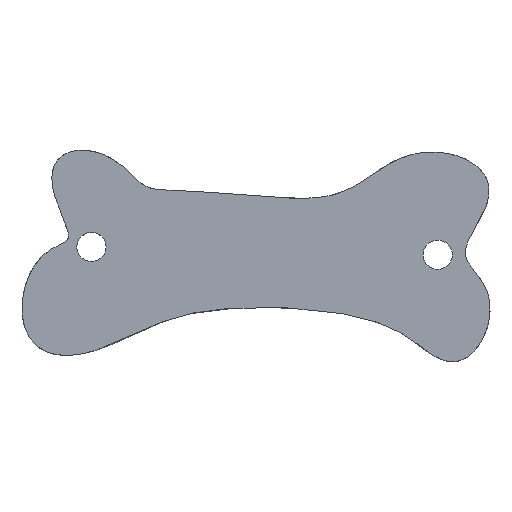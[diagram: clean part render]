
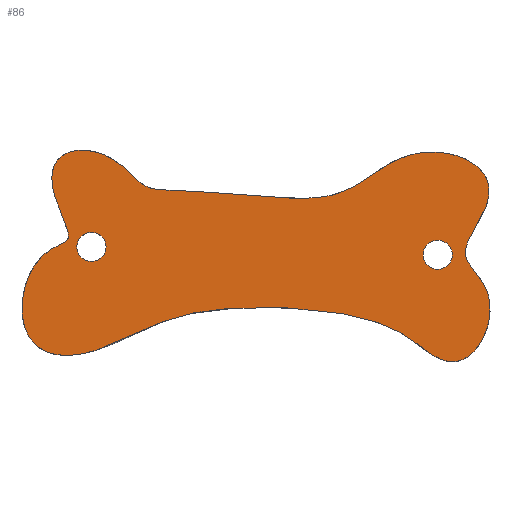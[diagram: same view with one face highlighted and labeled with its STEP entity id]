
A CAD part, top view. The second image highlights one B-rep face of the part: STEP entity #86.
In plain terms, the highlighted planar face has unit normal (0, 0, 1).
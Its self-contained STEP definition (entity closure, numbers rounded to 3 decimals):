
#15=FACE_BOUND('',#33,.T.);
#16=FACE_BOUND('',#34,.T.);
#19=PLANE('',#108);
#22=(
BOUNDED_CURVE()
B_SPLINE_CURVE(5,(#432,#433,#434,#435,#436,#437,#438,#439,#440,#441,#442,
#443,#444,#445,#446,#447,#448,#449,#450,#451,#452,#453,#454,#455,#456,#457,
#458,#459,#460,#461,#462,#463,#464,#465,#466,#467,#468,#469,#470,#471,#472,
#473,#474,#475,#476,#477,#478,#479,#480,#481,#482,#483,#484,#485,#486,#487,
#488,#489,#490,#491,#492,#493,#494,#495,#496,#497,#498,#499,#500,#501,#502,
#503,#504,#505,#506,#507,#508,#509,#510,#511,#512,#513,#514,#515,#516,#517,
#518,#519,#520,#521,#522,#523,#524,#525,#526),.UNSPECIFIED.,.T.,.F.)
B_SPLINE_CURVE_WITH_KNOTS((6,1,1,1,1,1,1,1,1,1,1,1,1,1,1,1,1,1,1,1,1,1,
1,1,1,1,1,1,1,1,1,1,1,1,1,1,1,1,1,1,1,1,1,1,1,1,1,1,1,1,1,1,1,1,1,1,1,1,
1,1,1,1,1,1,1,1,1,1,1,1,1,1,1,1,1,1,1,1,1,1,1,1,1,1,1,1,1,1,1,1,6),(-1.,
-0.989,-0.978,-0.967,-0.956,
-0.944,-0.933,-0.922,-0.911,
-0.9,-0.889,-0.878,-0.867,
-0.856,-0.844,-0.833,-0.822,
-0.811,-0.8,-0.789,-0.778,
-0.767,-0.756,-0.744,-0.733,
-0.722,-0.711,-0.7,-0.689,-0.678,
-0.667,-0.656,-0.644,-0.633,
-0.622,-0.611,-0.6,-0.589,-0.578,
-0.567,-0.556,-0.544,-0.533,
-0.522,-0.511,-0.5,-0.489,-0.478,
-0.467,-0.456,-0.444,-0.433,
-0.422,-0.411,-0.4,-0.389,-0.378,
-0.367,-0.356,-0.344,-0.333,
-0.322,-0.311,-0.3,-0.289,-0.278,
-0.267,-0.256,-0.244,-0.233,
-0.222,-0.211,-0.2,-0.189,-0.178,
-0.167,-0.156,-0.144,-0.133,
-0.122,-0.111,-0.1,-0.089,-0.078,
-0.067,-0.056,-0.044,-0.033,
-0.022,-0.011,0.),.UNSPECIFIED.)
CURVE()
GEOMETRIC_REPRESENTATION_ITEM()
RATIONAL_B_SPLINE_CURVE((1.,1.,1.,1.,1.,1.,1.,1.,1.,1.,1.,1.,1.,1.,1.,1.,
1.,1.,1.,1.,1.,1.,1.,1.,1.,1.,1.,1.,1.,1.,1.,1.,1.,1.,1.,1.,1.,1.,1.,1.,
1.,1.,1.,1.,1.,1.,1.,1.,1.,1.,1.,1.,1.,1.,1.,1.,1.,1.,1.,1.,1.,1.,1.,1.,
1.,1.,1.,1.,1.,1.,1.,1.,1.,1.,1.,1.,1.,1.,1.,1.,1.,1.,1.,1.,1.,1.,1.,1.,
1.,1.,1.,1.,1.,1.,1.))
REPRESENTATION_ITEM('')
);
#27=FACE_OUTER_BOUND('',#32,.T.);
#32=EDGE_LOOP('',(#75));
#33=EDGE_LOOP('',(#76));
#34=EDGE_LOOP('',(#77));
#44=CIRCLE('',#103,0.75);
#46=CIRCLE('',#106,0.75);
#48=VERTEX_POINT('',#133);
#50=VERTEX_POINT('',#139);
#53=VERTEX_POINT('',#430);
#54=EDGE_CURVE('',#48,#48,#44,.T.);
#57=EDGE_CURVE('',#50,#50,#46,.T.);
#62=EDGE_CURVE('',#53,#53,#22,.T.);
#75=ORIENTED_EDGE('',*,*,#62,.T.);
#76=ORIENTED_EDGE('',*,*,#54,.T.);
#77=ORIENTED_EDGE('',*,*,#57,.T.);
#86=ADVANCED_FACE('',(#27,#15,#16),#19,.T.);
#103=AXIS2_PLACEMENT_3D('',#134,#114,#115);
#106=AXIS2_PLACEMENT_3D('',#140,#121,#122);
#108=AXIS2_PLACEMENT_3D('',#527,#127,#128);
#114=DIRECTION('center_axis',(0.,0.,-1.));
#115=DIRECTION('ref_axis',(-1.,0.,0.));
#121=DIRECTION('center_axis',(0.,0.,-1.));
#122=DIRECTION('ref_axis',(-1.,0.,0.));
#127=DIRECTION('center_axis',(0.,0.,1.));
#128=DIRECTION('ref_axis',(1.,0.,0.));
#133=CARTESIAN_POINT('',(70.05,-26.994,1.5));
#134=CARTESIAN_POINT('Origin',(69.3,-26.994,1.5));
#139=CARTESIAN_POINT('',(52.25,-26.588,1.5));
#140=CARTESIAN_POINT('Origin',(51.5,-26.588,1.5));
#430=CARTESIAN_POINT('',(50.317,-26.042,1.5));
#432=CARTESIAN_POINT('Ctrl Pts',(50.317,-26.042,1.5));
#433=CARTESIAN_POINT('Ctrl Pts',(50.312,-26.109,1.5));
#434=CARTESIAN_POINT('Ctrl Pts',(50.279,-26.225,1.5));
#435=CARTESIAN_POINT('Ctrl Pts',(50.158,-26.352,1.5));
#436=CARTESIAN_POINT('Ctrl Pts',(49.863,-26.477,1.5));
#437=CARTESIAN_POINT('Ctrl Pts',(49.354,-26.713,1.5));
#438=CARTESIAN_POINT('Ctrl Pts',(48.815,-27.161,1.5));
#439=CARTESIAN_POINT('Ctrl Pts',(48.34,-27.848,1.5));
#440=CARTESIAN_POINT('Ctrl Pts',(48.007,-28.723,1.5));
#441=CARTESIAN_POINT('Ctrl Pts',(47.873,-29.682,1.5));
#442=CARTESIAN_POINT('Ctrl Pts',(47.972,-30.602,1.5));
#443=CARTESIAN_POINT('Ctrl Pts',(48.311,-31.366,1.5));
#444=CARTESIAN_POINT('Ctrl Pts',(48.869,-31.895,1.5));
#445=CARTESIAN_POINT('Ctrl Pts',(49.599,-32.168,1.5));
#446=CARTESIAN_POINT('Ctrl Pts',(50.436,-32.205,1.5));
#447=CARTESIAN_POINT('Ctrl Pts',(51.314,-32.054,1.5));
#448=CARTESIAN_POINT('Ctrl Pts',(52.174,-31.776,1.5));
#449=CARTESIAN_POINT('Ctrl Pts',(52.981,-31.432,1.5));
#450=CARTESIAN_POINT('Ctrl Pts',(53.733,-31.07,1.5));
#451=CARTESIAN_POINT('Ctrl Pts',(54.455,-30.722,1.5));
#452=CARTESIAN_POINT('Ctrl Pts',(55.188,-30.411,1.5));
#453=CARTESIAN_POINT('Ctrl Pts',(55.976,-30.149,1.5));
#454=CARTESIAN_POINT('Ctrl Pts',(56.859,-29.942,1.5));
#455=CARTESIAN_POINT('Ctrl Pts',(57.861,-29.794,1.5));
#456=CARTESIAN_POINT('Ctrl Pts',(58.977,-29.704,1.5));
#457=CARTESIAN_POINT('Ctrl Pts',(60.178,-29.673,1.5));
#458=CARTESIAN_POINT('Ctrl Pts',(61.423,-29.699,1.5));
#459=CARTESIAN_POINT('Ctrl Pts',(62.66,-29.78,1.5));
#460=CARTESIAN_POINT('Ctrl Pts',(63.838,-29.913,1.5));
#461=CARTESIAN_POINT('Ctrl Pts',(64.912,-30.096,1.5));
#462=CARTESIAN_POINT('Ctrl Pts',(65.848,-30.327,1.5));
#463=CARTESIAN_POINT('Ctrl Pts',(66.635,-30.603,1.5));
#464=CARTESIAN_POINT('Ctrl Pts',(67.29,-30.922,1.5));
#465=CARTESIAN_POINT('Ctrl Pts',(67.845,-31.278,1.5));
#466=CARTESIAN_POINT('Ctrl Pts',(68.343,-31.656,1.5));
#467=CARTESIAN_POINT('Ctrl Pts',(68.825,-32.027,1.5));
#468=CARTESIAN_POINT('Ctrl Pts',(69.324,-32.342,1.5));
#469=CARTESIAN_POINT('Ctrl Pts',(69.849,-32.527,1.5));
#470=CARTESIAN_POINT('Ctrl Pts',(70.395,-32.511,1.5));
#471=CARTESIAN_POINT('Ctrl Pts',(70.935,-32.243,1.5));
#472=CARTESIAN_POINT('Ctrl Pts',(71.425,-31.721,1.5));
#473=CARTESIAN_POINT('Ctrl Pts',(71.804,-31.008,1.5));
#474=CARTESIAN_POINT('Ctrl Pts',(72.016,-30.2,1.5));
#475=CARTESIAN_POINT('Ctrl Pts',(72.022,-29.401,1.5));
#476=CARTESIAN_POINT('Ctrl Pts',(71.819,-28.698,1.5));
#477=CARTESIAN_POINT('Ctrl Pts',(71.458,-28.132,1.5));
#478=CARTESIAN_POINT('Ctrl Pts',(71.056,-27.679,1.5));
#479=CARTESIAN_POINT('Ctrl Pts',(70.751,-27.274,1.5));
#480=CARTESIAN_POINT('Ctrl Pts',(70.656,-26.843,1.5));
#481=CARTESIAN_POINT('Ctrl Pts',(70.815,-26.33,1.5));
#482=CARTESIAN_POINT('Ctrl Pts',(71.167,-25.719,1.5));
#483=CARTESIAN_POINT('Ctrl Pts',(71.583,-25.025,1.5));
#484=CARTESIAN_POINT('Ctrl Pts',(71.91,-24.288,1.5));
#485=CARTESIAN_POINT('Ctrl Pts',(72.01,-23.559,1.5));
#486=CARTESIAN_POINT('Ctrl Pts',(71.799,-22.892,1.5));
#487=CARTESIAN_POINT('Ctrl Pts',(71.285,-22.337,1.5));
#488=CARTESIAN_POINT('Ctrl Pts',(70.536,-21.933,1.5));
#489=CARTESIAN_POINT('Ctrl Pts',(69.651,-21.709,1.5));
#490=CARTESIAN_POINT('Ctrl Pts',(68.737,-21.675,1.5));
#491=CARTESIAN_POINT('Ctrl Pts',(67.881,-21.822,1.5));
#492=CARTESIAN_POINT('Ctrl Pts',(67.122,-22.116,1.5));
#493=CARTESIAN_POINT('Ctrl Pts',(66.456,-22.506,1.5));
#494=CARTESIAN_POINT('Ctrl Pts',(65.854,-22.934,1.5));
#495=CARTESIAN_POINT('Ctrl Pts',(65.272,-23.342,1.5));
#496=CARTESIAN_POINT('Ctrl Pts',(64.663,-23.683,1.5));
#497=CARTESIAN_POINT('Ctrl Pts',(63.992,-23.928,1.5));
#498=CARTESIAN_POINT('Ctrl Pts',(63.238,-24.07,1.5));
#499=CARTESIAN_POINT('Ctrl Pts',(62.398,-24.12,1.5));
#500=CARTESIAN_POINT('Ctrl Pts',(61.48,-24.097,1.5));
#501=CARTESIAN_POINT('Ctrl Pts',(60.501,-24.028,1.5));
#502=CARTESIAN_POINT('Ctrl Pts',(59.49,-23.938,1.5));
#503=CARTESIAN_POINT('Ctrl Pts',(58.484,-23.85,1.5));
#504=CARTESIAN_POINT('Ctrl Pts',(57.523,-23.778,1.5));
#505=CARTESIAN_POINT('Ctrl Pts',(56.647,-23.727,1.5));
#506=CARTESIAN_POINT('Ctrl Pts',(55.886,-23.695,1.5));
#507=CARTESIAN_POINT('Ctrl Pts',(55.261,-23.671,1.5));
#508=CARTESIAN_POINT('Ctrl Pts',(54.772,-23.632,1.5));
#509=CARTESIAN_POINT('Ctrl Pts',(54.393,-23.543,1.5));
#510=CARTESIAN_POINT('Ctrl Pts',(54.08,-23.367,1.5));
#511=CARTESIAN_POINT('Ctrl Pts',(53.775,-23.086,1.5));
#512=CARTESIAN_POINT('Ctrl Pts',(53.42,-22.713,1.5));
#513=CARTESIAN_POINT('Ctrl Pts',(52.968,-22.303,1.5));
#514=CARTESIAN_POINT('Ctrl Pts',(52.393,-21.925,1.5));
#515=CARTESIAN_POINT('Ctrl Pts',(51.702,-21.656,1.5));
#516=CARTESIAN_POINT('Ctrl Pts',(50.952,-21.562,1.5));
#517=CARTESIAN_POINT('Ctrl Pts',(50.252,-21.688,1.5));
#518=CARTESIAN_POINT('Ctrl Pts',(49.715,-22.054,1.5));
#519=CARTESIAN_POINT('Ctrl Pts',(49.434,-22.645,1.5));
#520=CARTESIAN_POINT('Ctrl Pts',(49.441,-23.408,1.5));
#521=CARTESIAN_POINT('Ctrl Pts',(49.67,-24.24,1.5));
#522=CARTESIAN_POINT('Ctrl Pts',(49.997,-25.027,1.5));
#523=CARTESIAN_POINT('Ctrl Pts',(50.22,-25.536,1.5));
#524=CARTESIAN_POINT('Ctrl Pts',(50.308,-25.824,1.5));
#525=CARTESIAN_POINT('Ctrl Pts',(50.321,-25.975,1.5));
#526=CARTESIAN_POINT('Ctrl Pts',(50.317,-26.042,1.5));
#527=CARTESIAN_POINT('Origin',(59.948,-27.044,1.5));
